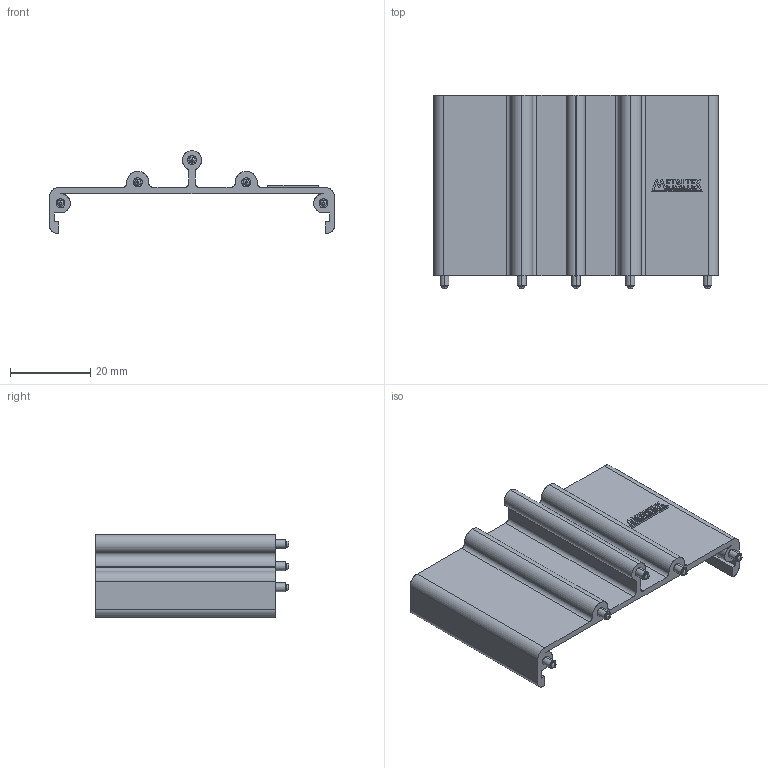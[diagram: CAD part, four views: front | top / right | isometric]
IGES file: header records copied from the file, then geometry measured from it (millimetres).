
Start section: SolidWorks IGES file using analytic representation for surfaces
Global section: file name: D:\X - Arquivos\PROEX\Empresas\P11 - METALTEX\01 - Produtos\IGES\7ª remessa\2ª etapa\SP7-E45.IGS; native system: SolidWorks 2012; preprocessor: SolidWorks 2012; author: Usuario; date: 190912.135201; units: millimetre
Bounding box: 71 x 48.3 x 20.65 mm (x, y, z)
Surface area: 10657.5 mm2 (no closed solid volume)
Topology: 0 solids, 0 shells, 211 faces, 2238 edges, 2238 vertices
Faces by surface type: bspline 151, revolution 60
